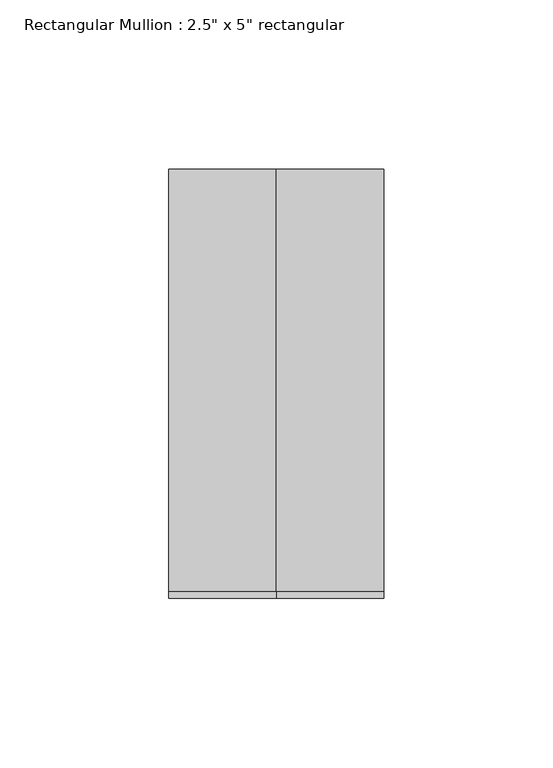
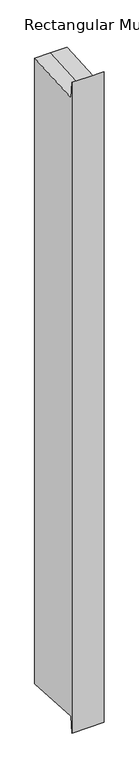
"""IFC4 building model written with IfcOpenShell, lengths in millimetres: member geometry."""

from ifc_helpers import new_model, si_unit, origin, place, context, project, spatial, faceted_brep, source, transform, mapped, element, save


def member_a59977dd(model_context):
    return source(origin(), model_context, "Body", "Brep", [
        faceted_brep([(-31.75, 63.5, 3.6328081), (0.0, 63.5, 3.6328081), (31.75, 63.5, 3.6328081), (31.75, 63.5, -1303.726264), (0.0, 63.5, -1303.726264), (-31.75, 63.5, -1303.726264), (-31.75, -63.5, 29.9084196), (-31.75, -61.5532406, -3.6267023), (-31.75, -61.5532406, -1296.4667536), (-31.75, -63.5, -1330.0018755), (31.75, -63.5, 29.9084196), (0.0, -63.5, 29.9084196), (0.0, -63.5, -1330.0018755), (31.75, -63.5, -1330.0018755), (31.75, -61.5532406, -3.6267023), (31.75, -61.5532406, -1296.4667536), (0.0, -61.5532406, -3.6267023), (0.0, -61.5532406, -1296.4667536)], [[[0, 1, 2, 3, 4, 5]], [[6, 7, 0, 5, 8, 9]], [[10, 11, 6, 9, 12, 13]], [[2, 14, 10, 13, 15, 3]], [[2, 1, 16, 14]], [[1, 0, 7, 16]], [[7, 6, 11, 16]], [[11, 10, 14, 16]], [[3, 15, 17, 4]], [[15, 13, 12, 17]], [[12, 9, 8, 17]], [[8, 5, 4, 17]]]),
    ])


if __name__ == "__main__":
    model = new_model("IFC4")
    model_context = context("Model", 3, world=origin())
    ifc_project = project(units=[si_unit("LENGTHUNIT", "METRE", prefix="MILLI")], contexts=[model_context])
    site = spatial("IfcSite", under=ifc_project)
    building = spatial("IfcBuilding", under=site)
    placement = place(None, origin())
    member_shape = member_a59977dd(model_context)
    element("IfcMember", 1, ObjectType="Rectangular Mullion : 2.5\" x 5\" rectangular", at=placement, inside=building, context=model_context, shape_type="MappedRepresentation", body=[
        mapped(member_shape, transform((0.0, 0.0, 0.0), x_axis=(1.0, 0.0, 0.0), y_axis=(0.0, 1.0, 0.0), z_axis=(0.0, 0.0, 1.0))),
    ])
    save(model, "model.ifc")
